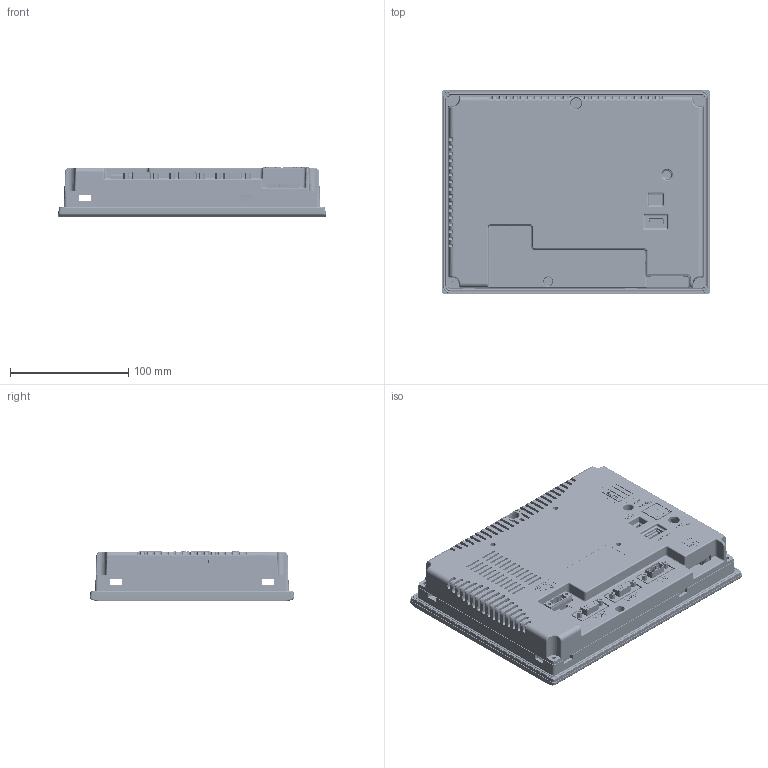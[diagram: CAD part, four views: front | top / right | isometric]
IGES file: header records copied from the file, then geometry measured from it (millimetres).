
Global section: file name: No Iges File Name specified; native system: AutoDesk Inventor R12.0; preprocessor: AutoDesk Inventor Iges Exporter R12.0; author: No Author specified; organization: No Organization specified; date: 20140318.130504; units: millimetre
Bounding box: 226 x 173 x 42.9 mm (x, y, z)
Volume: 433295 mm3; surface area: 314250.4 mm2
Topology: 2 solids, 2 shells, 17822 faces, 52092 edges, 34626 vertices
Faces by surface type: plane 16170, cylinder 587, revolution 537, bspline 479, cone 26, torus 17, sphere 6
